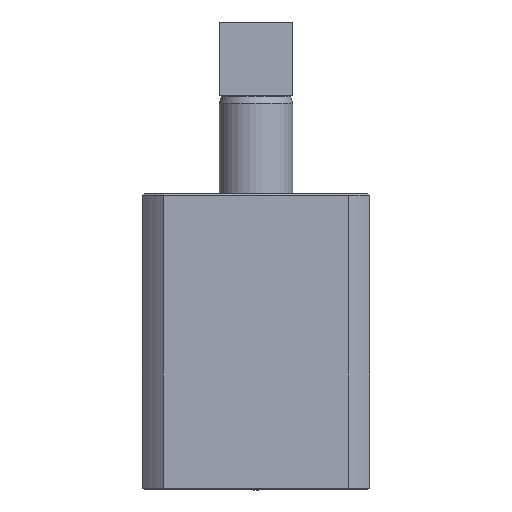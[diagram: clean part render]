
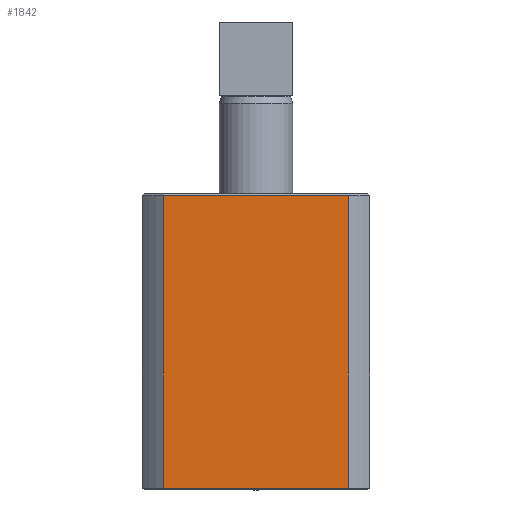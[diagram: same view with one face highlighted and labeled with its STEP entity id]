
A CAD part, left-side view. The second image highlights one B-rep face of the part: STEP entity #1842.
In plain terms, the highlighted planar face has unit normal (-1, 0, 0).
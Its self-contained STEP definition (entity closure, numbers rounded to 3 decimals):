
#167=LINE('',#2891,#267);
#172=LINE('',#2952,#272);
#173=LINE('',#2954,#273);
#174=LINE('',#2956,#274);
#267=VECTOR('',#2330,1000.);
#272=VECTOR('',#2381,1000.);
#273=VECTOR('',#2384,1000.);
#274=VECTOR('',#2385,1000.);
#454=ORIENTED_EDGE('',*,*,#887,.F.);
#455=ORIENTED_EDGE('',*,*,#888,.T.);
#456=ORIENTED_EDGE('',*,*,#889,.T.);
#457=ORIENTED_EDGE('',*,*,#867,.T.);
#867=EDGE_CURVE('',#1100,#1098,#167,.T.);
#887=EDGE_CURVE('',#1113,#1098,#172,.T.);
#888=EDGE_CURVE('',#1113,#1114,#173,.T.);
#889=EDGE_CURVE('',#1114,#1100,#174,.T.);
#1098=VERTEX_POINT('',#2878);
#1100=VERTEX_POINT('',#2890);
#1113=VERTEX_POINT('',#2951);
#1114=VERTEX_POINT('',#2955);
#1379=EDGE_LOOP('',(#454,#455,#456,#457));
#1589=FACE_BOUND('',#1379,.T.);
#1756=PLANE('',#2063);
#1842=ADVANCED_FACE('',(#1589),#1756,.F.);
#2063=AXIS2_PLACEMENT_3D('',#2953,#2382,#2383);
#2330=DIRECTION('',(0.,1.,0.));
#2381=DIRECTION('',(0.,0.,1.));
#2382=DIRECTION('',(1.,0.,0.));
#2383=DIRECTION('',(0.,1.,0.));
#2384=DIRECTION('',(0.,-1.,0.));
#2385=DIRECTION('',(0.,0.,1.));
#2878=CARTESIAN_POINT('',(-34.5,64.607,18.4));
#2890=CARTESIAN_POINT('',(-34.5,8.393,18.4));
#2891=CARTESIAN_POINT('',(-34.5,64.607,18.4));
#2951=CARTESIAN_POINT('',(-34.5,64.607,-70.6));
#2952=CARTESIAN_POINT('',(-34.5,64.607,-71.1));
#2953=CARTESIAN_POINT('',(-34.5,64.607,-71.1));
#2954=CARTESIAN_POINT('',(-34.5,8.393,-70.6));
#2955=CARTESIAN_POINT('',(-34.5,8.393,-70.6));
#2956=CARTESIAN_POINT('',(-34.5,8.393,-71.1));
